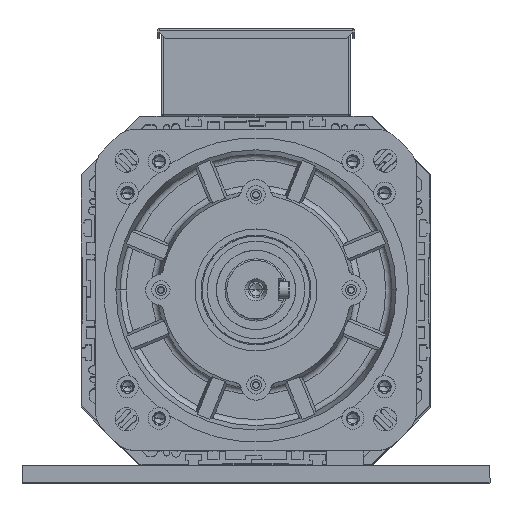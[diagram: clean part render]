
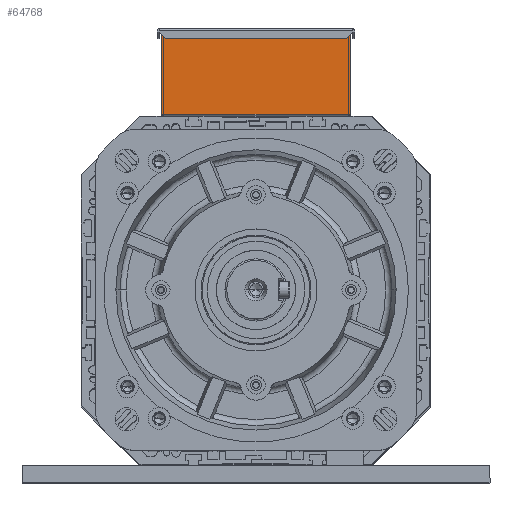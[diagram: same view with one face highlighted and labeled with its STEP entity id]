
A CAD part, top view. The second image highlights one B-rep face of the part: STEP entity #64768.
In plain terms, the highlighted planar face has unit normal (0, 0, 1) as drawn and (1, 0, 0) by its records, which use the part's own axes.
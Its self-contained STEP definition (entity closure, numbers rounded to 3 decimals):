
#906 = VECTOR ( 'NONE', #17709, 1000. ) ;
#1126 = FACE_OUTER_BOUND ( 'NONE', #3076, .T. ) ;
#1445 = CARTESIAN_POINT ( 'NONE',  ( 100., -77.5, 65.8 ) ) ;
#2273 = ORIENTED_EDGE ( 'NONE', *, *, #73481, .T. ) ;
#2739 = CARTESIAN_POINT ( 'NONE',  ( 100., -77.5, 0.2 ) ) ;
#3076 = EDGE_LOOP ( 'NONE', ( #2273, #45056, #23258, #40403, #49186, #79701 ) ) ;
#4723 = CARTESIAN_POINT ( 'NONE',  ( 100., 77.5, 65.8 ) ) ;
#7063 = LINE ( 'NONE', #2739, #20065 ) ;
#10194 = DIRECTION ( 'NONE',  ( 0., 0., 1. ) ) ;
#10467 = EDGE_CURVE ( 'NONE', #102800, #99791, #38543, .T. ) ;
#12936 = DIRECTION ( 'NONE',  ( 0., 0., -1. ) ) ;
#17709 = DIRECTION ( 'NONE',  ( 0., -1., 0. ) ) ;
#18187 = PLANE ( 'NONE',  #50754 ) ;
#18257 = EDGE_CURVE ( 'NONE', #33781, #53626, #67349, .T. ) ;
#18715 = VECTOR ( 'NONE', #12936, 1000. ) ;
#19281 = CARTESIAN_POINT ( 'NONE',  ( 100., -77.5, 0.2 ) ) ;
#19988 = VECTOR ( 'NONE', #94391, 1000. ) ;
#20065 = VECTOR ( 'NONE', #36338, 1000. ) ;
#23258 = ORIENTED_EDGE ( 'NONE', *, *, #78536, .F. ) ;
#26231 = CARTESIAN_POINT ( 'NONE',  ( 100., 0., 0. ) ) ;
#26504 = DIRECTION ( 'NONE',  ( 0., -1., 0. ) ) ;
#30985 = CARTESIAN_POINT ( 'NONE',  ( 100., 75.8, 0.2 ) ) ;
#33781 = VERTEX_POINT ( 'NONE', #30985 ) ;
#36338 = DIRECTION ( 'NONE',  ( 0., -1., 0. ) ) ;
#36431 = CARTESIAN_POINT ( 'NONE',  ( 100., -77.5, 0. ) ) ;
#38543 = LINE ( 'NONE', #36431, #18715 ) ;
#40403 = ORIENTED_EDGE ( 'NONE', *, *, #18257, .F. ) ;
#45056 = ORIENTED_EDGE ( 'NONE', *, *, #10467, .T. ) ;
#45455 = VECTOR ( 'NONE', #70532, 1000. ) ;
#49186 = ORIENTED_EDGE ( 'NONE', *, *, #89725, .F. ) ;
#50754 = AXIS2_PLACEMENT_3D ( 'NONE', #26231, #67828, #10194 ) ;
#51229 = CARTESIAN_POINT ( 'NONE',  ( 100., 77.5, 65.8 ) ) ;
#53626 = VERTEX_POINT ( 'NONE', #89456 ) ;
#54168 = VERTEX_POINT ( 'NONE', #51229 ) ;
#57477 = VERTEX_POINT ( 'NONE', #63370 ) ;
#63370 = CARTESIAN_POINT ( 'NONE',  ( 100., 77.5, 0.2 ) ) ;
#63549 = CARTESIAN_POINT ( 'NONE',  ( 100., 77.5, 0. ) ) ;
#64768 = ADVANCED_FACE ( 'NONE', ( #1126 ), #18187, .F. ) ;
#67349 = LINE ( 'NONE', #19281, #906 ) ;
#67828 = DIRECTION ( 'NONE',  ( -1., 0., 0. ) ) ;
#70532 = DIRECTION ( 'NONE',  ( 0., 0., 1. ) ) ;
#71447 = LINE ( 'NONE', #4723, #19988 ) ;
#72996 = EDGE_CURVE ( 'NONE', #57477, #54168, #102016, .T. ) ;
#73481 = EDGE_CURVE ( 'NONE', #54168, #102800, #71447, .T. ) ;
#77607 = VECTOR ( 'NONE', #26504, 1000. ) ;
#78536 = EDGE_CURVE ( 'NONE', #53626, #99791, #84666, .T. ) ;
#79701 = ORIENTED_EDGE ( 'NONE', *, *, #72996, .T. ) ;
#84666 = LINE ( 'NONE', #93167, #77607 ) ;
#89456 = CARTESIAN_POINT ( 'NONE',  ( 100., -75.8, 0.2 ) ) ;
#89725 = EDGE_CURVE ( 'NONE', #57477, #33781, #7063, .T. ) ;
#92634 = CARTESIAN_POINT ( 'NONE',  ( 100., -77.5, 0.2 ) ) ;
#93167 = CARTESIAN_POINT ( 'NONE',  ( 100., -77.5, 0.2 ) ) ;
#94391 = DIRECTION ( 'NONE',  ( 0., -1., 0. ) ) ;
#99791 = VERTEX_POINT ( 'NONE', #92634 ) ;
#102016 = LINE ( 'NONE', #63549, #45455 ) ;
#102800 = VERTEX_POINT ( 'NONE', #1445 ) ;
